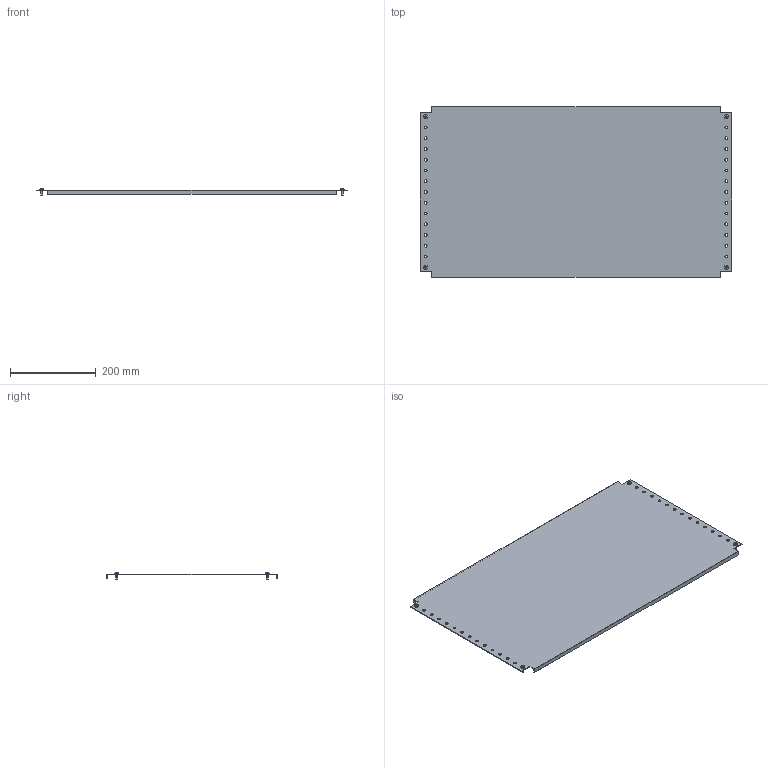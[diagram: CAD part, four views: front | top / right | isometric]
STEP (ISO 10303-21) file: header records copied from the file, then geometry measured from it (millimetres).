
FILE_DESCRIPTION (( 'STEP AP203' ), '1' );
FILE_NAME ('R6MPP04800.STEP', '2025-05-16T08:14:38', ( '' ), ( '' ), 'SwSTEP 2.0', 'SolidWorks 2022', '' );
FILE_SCHEMA (( 'CONFIG_CONTROL_DESIGN' ));
Length unit declared in the file: millimetre
Products named in the file (3): M5x12 DIN 7500 C Torx Zinc_stright; RB.3313.00.00.0 simple_-13; R6MPP04800
Assembly tree (5 placements, depth 2):
  R6MPP04800
    RB.3313.00.00.0 simple_-13
    M5x12 DIN 7500 C Torx Zinc_stright  x4
Bounding box: 725 x 398 x 15.56 mm (x, y, z)
Volume: 536168.2 mm3; surface area: 600782.7 mm2
Topology: 5 solids, 5 shells, 182 faces, 452 edges, 276 vertices
Faces by surface type: cylinder 76, plane 58, cone 16, torus 16, bspline 8, sphere 8
Entity records: 4239 total; most frequent: CARTESIAN_POINT 825, DIRECTION 670, ORIENTED_EDGE 600, EDGE_CURVE 300, AXIS2_PLACEMENT_3D 264, VERTEX_POINT 195, EDGE_LOOP 171, CIRCLE 148
